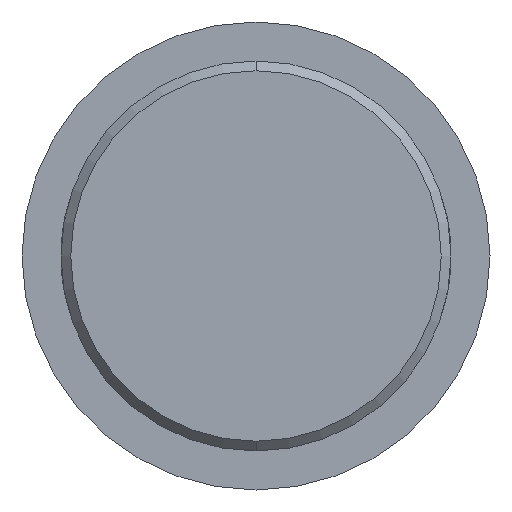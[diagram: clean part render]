
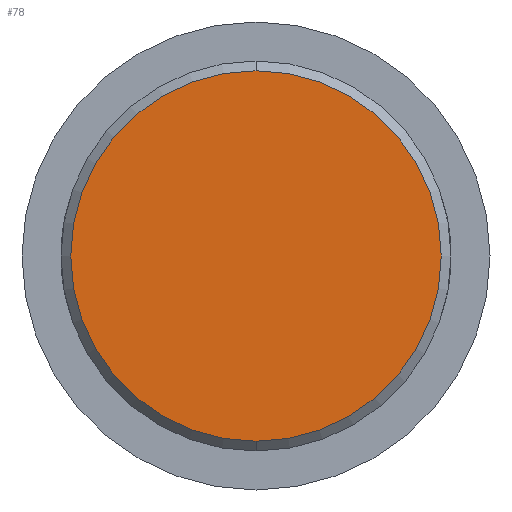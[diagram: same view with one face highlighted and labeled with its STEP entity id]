
A CAD part, front view. The second image highlights one B-rep face of the part: STEP entity #78.
In plain terms, the highlighted planar face has unit normal (0, -1, 0).
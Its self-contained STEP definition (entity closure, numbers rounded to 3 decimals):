
#3 = CIRCLE ( 'NONE', #181, 19. ) ;
#29 = VERTEX_POINT ( 'NONE', #104 ) ;
#36 = DIRECTION ( 'NONE',  ( 0., 0., -1. ) ) ;
#52 = DIRECTION ( 'NONE',  ( 0., 0., -1. ) ) ;
#78 = ADVANCED_FACE ( 'NONE', ( #202 ), #333, .T. ) ;
#100 = DIRECTION ( 'NONE',  ( 0., -1., 0. ) ) ;
#104 = CARTESIAN_POINT ( 'NONE',  ( 0., -100., 19. ) ) ;
#107 = DIRECTION ( 'NONE',  ( 0., -1., 0. ) ) ;
#156 = EDGE_LOOP ( 'NONE', ( #404, #489 ) ) ;
#181 = AXIS2_PLACEMENT_3D ( 'NONE', #522, #100, #52 ) ;
#202 = FACE_OUTER_BOUND ( 'NONE', #156, .T. ) ;
#205 = VERTEX_POINT ( 'NONE', #505 ) ;
#236 = AXIS2_PLACEMENT_3D ( 'NONE', #498, #525, #318 ) ;
#250 = CIRCLE ( 'NONE', #496, 19. ) ;
#262 = CARTESIAN_POINT ( 'NONE',  ( 0., -100., 0. ) ) ;
#318 = DIRECTION ( 'NONE',  ( 0., 0., -1. ) ) ;
#333 = PLANE ( 'NONE',  #236 ) ;
#337 = EDGE_CURVE ( 'NONE', #205, #29, #3, .T. ) ;
#364 = EDGE_CURVE ( 'NONE', #29, #205, #250, .T. ) ;
#404 = ORIENTED_EDGE ( 'NONE', *, *, #364, .T. ) ;
#489 = ORIENTED_EDGE ( 'NONE', *, *, #337, .T. ) ;
#496 = AXIS2_PLACEMENT_3D ( 'NONE', #262, #107, #36 ) ;
#498 = CARTESIAN_POINT ( 'NONE',  ( 0., -100., 0. ) ) ;
#505 = CARTESIAN_POINT ( 'NONE',  ( 0., -100., -19. ) ) ;
#522 = CARTESIAN_POINT ( 'NONE',  ( 0., -100., 0. ) ) ;
#525 = DIRECTION ( 'NONE',  ( 0., -1., 0. ) ) ;
